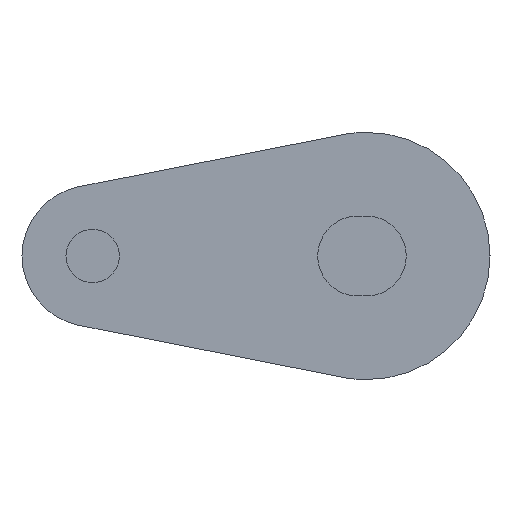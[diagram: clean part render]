
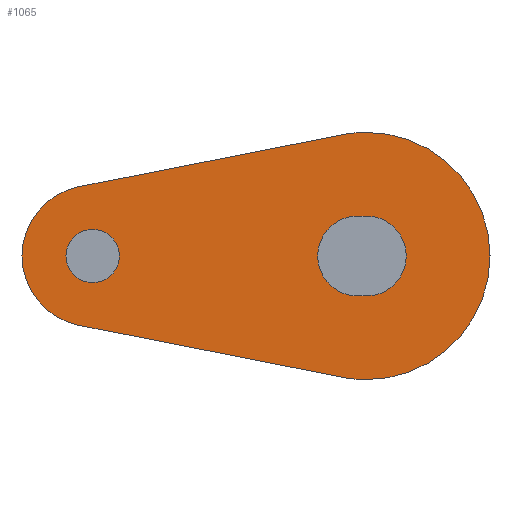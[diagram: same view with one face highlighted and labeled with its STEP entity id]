
A CAD part, left-side view. The second image highlights one B-rep face of the part: STEP entity #1065.
In plain terms, the highlighted planar face has unit normal (-1, 0, 0).
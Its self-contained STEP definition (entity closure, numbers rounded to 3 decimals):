
#9 = LINE ( 'NONE', #439, #268 ) ;
#10 = CIRCLE ( 'NONE', #1023, 1.51 ) ;
#42 = CIRCLE ( 'NONE', #1014, 2.26 ) ;
#53 = CIRCLE ( 'NONE', #875, 4. ) ;
#63 = CIRCLE ( 'NONE', #1017, 2.26 ) ;
#65 = VECTOR ( 'NONE', #728, 1000. ) ;
#68 = LINE ( 'NONE', #729, #65 ) ;
#69 = CIRCLE ( 'NONE', #941, 7. ) ;
#71 = VECTOR ( 'NONE', #751, 1000. ) ;
#72 = LINE ( 'NONE', #752, #71 ) ;
#88 = CIRCLE ( 'NONE', #927, 7. ) ;
#97 = CIRCLE ( 'NONE', #880, 7. ) ;
#105 = VECTOR ( 'NONE', #816, 1000. ) ;
#107 = LINE ( 'NONE', #833, #105 ) ;
#123 = CIRCLE ( 'NONE', #983, 1.51 ) ;
#164 = ORIENTED_EDGE ( 'NONE', *, *, #1020, .T. ) ;
#209 = ORIENTED_EDGE ( 'NONE', *, *, #893, .F. ) ;
#212 = ORIENTED_EDGE ( 'NONE', *, *, #868, .T. ) ;
#213 = ORIENTED_EDGE ( 'NONE', *, *, #955, .F. ) ;
#214 = ORIENTED_EDGE ( 'NONE', *, *, #967, .F. ) ;
#215 = ORIENTED_EDGE ( 'NONE', *, *, #933, .F. ) ;
#217 = ORIENTED_EDGE ( 'NONE', *, *, #954, .T. ) ;
#218 = ORIENTED_EDGE ( 'NONE', *, *, #898, .F. ) ;
#249 = ORIENTED_EDGE ( 'NONE', *, *, #949, .T. ) ;
#265 = ORIENTED_EDGE ( 'NONE', *, *, #950, .F. ) ;
#268 = VECTOR ( 'NONE', #437, 1000. ) ;
#271 = EDGE_LOOP ( 'NONE', ( #309, #312, #217, #249 ) ) ;
#272 = EDGE_LOOP ( 'NONE', ( #212, #164 ) ) ;
#309 = ORIENTED_EDGE ( 'NONE', *, *, #979, .T. ) ;
#312 = ORIENTED_EDGE ( 'NONE', *, *, #864, .T. ) ;
#320 = EDGE_LOOP ( 'NONE', ( #214, #213, #218, #265, #215, #209 ) ) ;
#380 = FACE_BOUND ( 'NONE', #271, .T. ) ;
#385 = FACE_BOUND ( 'NONE', #272, .T. ) ;
#387 = FACE_OUTER_BOUND ( 'NONE', #320, .T. ) ;
#414 = DIRECTION ( 'NONE',  ( 1., 0., 0. ) ) ;
#418 = CARTESIAN_POINT ( 'NONE',  ( -178.5, 15.5, 0. ) ) ;
#436 = DIRECTION ( 'NONE',  ( 0., 0., -1. ) ) ;
#437 = DIRECTION ( 'NONE',  ( 0., -1., 0. ) ) ;
#438 = DIRECTION ( 'NONE',  ( -1., 0., 0. ) ) ;
#439 = CARTESIAN_POINT ( 'NONE',  ( -178.5, 0.5, 2.26 ) ) ;
#440 = CARTESIAN_POINT ( 'NONE',  ( -178.5, 15.5, 0. ) ) ;
#450 = PLANE ( 'NONE',  #1000 ) ;
#549 = CARTESIAN_POINT ( 'NONE',  ( -178.5, 15.5, 1.51 ) ) ;
#559 = CARTESIAN_POINT ( 'NONE',  ( -178.5, 15.5, -1.51 ) ) ;
#564 = CARTESIAN_POINT ( 'NONE',  ( -178.5, 0., 7. ) ) ;
#599 = CARTESIAN_POINT ( 'NONE',  ( -178.5, 0., 2.26 ) ) ;
#603 = CARTESIAN_POINT ( 'NONE',  ( -178.5, 0.5, 2.26 ) ) ;
#606 = CARTESIAN_POINT ( 'NONE',  ( -178.5, 0.5, -2.26 ) ) ;
#611 = DIRECTION ( 'NONE',  ( 0., 0., -1. ) ) ;
#612 = DIRECTION ( 'NONE',  ( 1., 0., 0. ) ) ;
#615 = CARTESIAN_POINT ( 'NONE',  ( -178.5, 0., -7. ) ) ;
#617 = CARTESIAN_POINT ( 'NONE',  ( -178.5, 15.5, 0. ) ) ;
#631 = CARTESIAN_POINT ( 'NONE',  ( -178.5, 1.355, -6.868 ) ) ;
#645 = CARTESIAN_POINT ( 'NONE',  ( -178.5, 16.274, -3.924 ) ) ;
#648 = CARTESIAN_POINT ( 'NONE',  ( -178.5, 16.274, 3.924 ) ) ;
#650 = CARTESIAN_POINT ( 'NONE',  ( -178.5, 1.355, 6.868 ) ) ;
#675 = VERTEX_POINT ( 'NONE', #851 ) ;
#676 = DIRECTION ( 'NONE',  ( 0., 0., -1. ) ) ;
#677 = DIRECTION ( 'NONE',  ( 1., 0., 0. ) ) ;
#687 = CARTESIAN_POINT ( 'NONE',  ( -178.5, 0.5, 0. ) ) ;
#702 = DIRECTION ( 'NONE',  ( 0., 0., -1. ) ) ;
#703 = DIRECTION ( 'NONE',  ( 1., 0., 0. ) ) ;
#707 = VERTEX_POINT ( 'NONE', #650 ) ;
#710 = CARTESIAN_POINT ( 'NONE',  ( -178.5, 15.5, 0. ) ) ;
#712 = VERTEX_POINT ( 'NONE', #648 ) ;
#715 = VERTEX_POINT ( 'NONE', #645 ) ;
#722 = VERTEX_POINT ( 'NONE', #631 ) ;
#728 = DIRECTION ( 'NONE',  ( 0., 0.981, 0.194 ) ) ;
#729 = CARTESIAN_POINT ( 'NONE',  ( -178.5, 1.355, -6.868 ) ) ;
#730 = DIRECTION ( 'NONE',  ( 0., 0., -1. ) ) ;
#731 = DIRECTION ( 'NONE',  ( 1., 0., 0. ) ) ;
#741 = CARTESIAN_POINT ( 'NONE',  ( -178.5, 0., 0. ) ) ;
#743 = VERTEX_POINT ( 'NONE', #615 ) ;
#746 = DIRECTION ( 'NONE',  ( 0., 0., -1. ) ) ;
#747 = DIRECTION ( 'NONE',  ( 1., 0., 0. ) ) ;
#750 = VERTEX_POINT ( 'NONE', #606 ) ;
#751 = DIRECTION ( 'NONE',  ( 0., 1., 0. ) ) ;
#752 = CARTESIAN_POINT ( 'NONE',  ( -178.5, 0.5, -2.26 ) ) ;
#753 = VERTEX_POINT ( 'NONE', #603 ) ;
#757 = VERTEX_POINT ( 'NONE', #599 ) ;
#765 = VERTEX_POINT ( 'NONE', #564 ) ;
#767 = CARTESIAN_POINT ( 'NONE',  ( -178.5, 0., 0. ) ) ;
#768 = VERTEX_POINT ( 'NONE', #559 ) ;
#779 = VERTEX_POINT ( 'NONE', #549 ) ;
#787 = DIRECTION ( 'NONE',  ( 0., 0., -1. ) ) ;
#789 = DIRECTION ( 'NONE',  ( 1., 0., 0. ) ) ;
#790 = CARTESIAN_POINT ( 'NONE',  ( -178.5, 0., 0. ) ) ;
#804 = DIRECTION ( 'NONE',  ( 0., 0., -1. ) ) ;
#805 = DIRECTION ( 'NONE',  ( 1., 0., 0. ) ) ;
#808 = CARTESIAN_POINT ( 'NONE',  ( -178.5, 0., 0. ) ) ;
#816 = DIRECTION ( 'NONE',  ( 0., -0.981, 0.194 ) ) ;
#833 = CARTESIAN_POINT ( 'NONE',  ( -178.5, 16.274, 3.924 ) ) ;
#851 = CARTESIAN_POINT ( 'NONE',  ( -178.5, 0., -2.26 ) ) ;
#862 = DIRECTION ( 'NONE',  ( 0., 0., -1. ) ) ;
#864 = EDGE_CURVE ( 'NONE', #753, #757, #9, .T. ) ;
#868 = EDGE_CURVE ( 'NONE', #768, #779, #123, .T. ) ;
#875 = AXIS2_PLACEMENT_3D ( 'NONE', #710, #703, #702 ) ;
#880 = AXIS2_PLACEMENT_3D ( 'NONE', #808, #805, #804 ) ;
#893 = EDGE_CURVE ( 'NONE', #712, #707, #107, .T. ) ;
#898 = EDGE_CURVE ( 'NONE', #743, #722, #97, .T. ) ;
#927 = AXIS2_PLACEMENT_3D ( 'NONE', #790, #789, #787 ) ;
#933 = EDGE_CURVE ( 'NONE', #707, #765, #88, .T. ) ;
#941 = AXIS2_PLACEMENT_3D ( 'NONE', #767, #747, #746 ) ;
#949 = EDGE_CURVE ( 'NONE', #675, #750, #72, .T. ) ;
#950 = EDGE_CURVE ( 'NONE', #765, #743, #69, .T. ) ;
#954 = EDGE_CURVE ( 'NONE', #757, #675, #63, .T. ) ;
#955 = EDGE_CURVE ( 'NONE', #722, #715, #68, .T. ) ;
#967 = EDGE_CURVE ( 'NONE', #715, #712, #53, .T. ) ;
#979 = EDGE_CURVE ( 'NONE', #750, #753, #42, .T. ) ;
#983 = AXIS2_PLACEMENT_3D ( 'NONE', #418, #414, #862 ) ;
#1000 = AXIS2_PLACEMENT_3D ( 'NONE', #440, #438, #436 ) ;
#1014 = AXIS2_PLACEMENT_3D ( 'NONE', #687, #677, #676 ) ;
#1017 = AXIS2_PLACEMENT_3D ( 'NONE', #741, #731, #730 ) ;
#1020 = EDGE_CURVE ( 'NONE', #779, #768, #10, .T. ) ;
#1023 = AXIS2_PLACEMENT_3D ( 'NONE', #617, #612, #611 ) ;
#1065 = ADVANCED_FACE ( 'NONE', ( #380, #385, #387 ), #450, .T. ) ;
